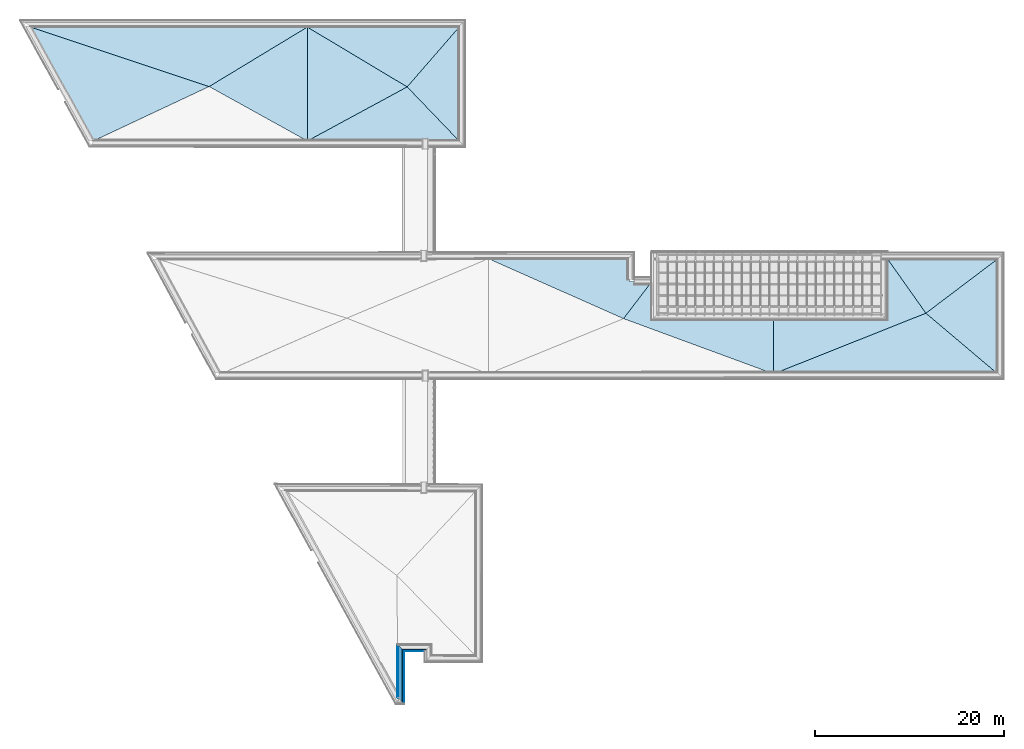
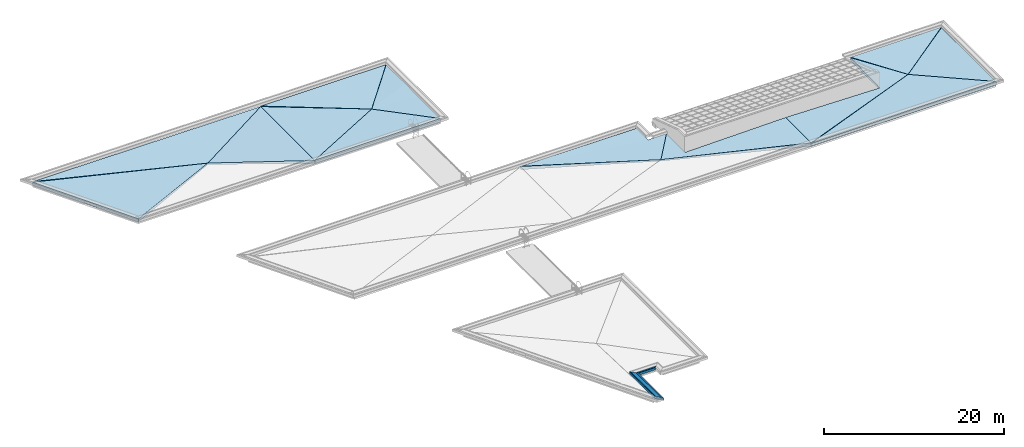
# One storey, part 15 of 47: 13 roofs, 6 building element parts, 2 elements without a shape of their own.
"""IFC2X3 building model written with IfcOpenShell, lengths in millimetres."""

from ifc_helpers import new_model, entity, si_unit, converted_unit, derived_unit, money_unit, direction, frame, origin_with_axes, place, context, subcontext, project, spatial, polyline, outline, extrude, faceted_brep, material, type_object, element, aggregate, save


model = new_model("IFC2X3")

# Units and contexts
model_context = context("Model", 3, precision=1e-05, world=origin_with_axes(), true_north=direction((0.0, 1.0)))
body_context = subcontext(model_context, "Body", "Model", "MODEL_VIEW")
ifc_project = project(units=[si_unit("LENGTHUNIT", "METRE", prefix="MILLI"), si_unit("AREAUNIT", "SQUARE_METRE"), si_unit("VOLUMEUNIT", "CUBIC_METRE"), converted_unit("PLANEANGLEUNIT", "DEGREE", entity("IfcPlaneAngleMeasure", 0.0174532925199), si_unit("PLANEANGLEUNIT", "RADIAN"), dimensions=[0, 0, 0, 0, 0, 0, 0]), si_unit("SOLIDANGLEUNIT", "STERADIAN"), money_unit("EUR"), converted_unit("TIMEUNIT", "Year", entity("IfcTimeMeasure", 31556926.0), si_unit("TIMEUNIT", "SECOND"), dimensions=[0, 0, 1, 0, 0, 0, 0]), si_unit("MASSUNIT", "GRAM", prefix="KILO"), si_unit("THERMODYNAMICTEMPERATUREUNIT", "DEGREE_CELSIUS"), si_unit("LUMINOUSINTENSITYUNIT", "LUMEN"), si_unit("ENERGYUNIT", "JOULE", prefix="MEGA"), derived_unit("THERMALCONDUCTANCEUNIT", [(si_unit("POWERUNIT", "WATT"), 1), (si_unit("LENGTHUNIT", "METRE"), -1), (si_unit("THERMODYNAMICTEMPERATUREUNIT", "KELVIN"), -1)]), derived_unit("SPECIFICHEATCAPACITYUNIT", [(si_unit("ENERGYUNIT", "JOULE"), 1), (si_unit("MASSUNIT", "GRAM", prefix="KILO"), -1), (si_unit("THERMODYNAMICTEMPERATUREUNIT", "KELVIN"), -1)]), derived_unit("MASSDENSITYUNIT", [(si_unit("MASSUNIT", "GRAM", prefix="KILO"), 1), (si_unit("VOLUMEUNIT", "CUBIC_METRE"), -1)])], contexts=[model_context])

# Site, building, storey
site_placement = place(None, origin_with_axes())
site = spatial("IfcSite", under=ifc_project, at=site_placement, Name="Site", CompositionType="ELEMENT")
building_placement = place(site_placement, origin_with_axes())
building = spatial("IfcBuilding", under=site, at=building_placement, Name="Building", CompositionType="ELEMENT")
storey_placement = place(building_placement, frame((0.0, 0.0, 6000.0), z_axis=(0.0, 0.0, 1.0), x_axis=(1.0, 0.0, 0.0)))
storey = spatial("IfcBuildingStorey", under=building, at=storey_placement, Name="KATUSEPLAAN", CompositionType="ELEMENT", Elevation=6000.0)

# Roofs
ifc_material_1 = material(Name="Soojustus - Plastik Kõva")
roof_1_placement = place(storey_placement, frame((88519.207879, 41106.36363, 515.0), z_axis=(0.0, 0.0, 1.0), x_axis=(1.0, 0.0, 0.0)))
element("IfcRoof", 1, at=roof_1_placement, inside=storey, material=ifc_material_1, Name="Soojustus - Plastik Kõva", ShapeType="NOTDEFINED", context=body_context, shape_type="Brep", body=[
    faceted_brep([(11655.4774469, 5741.44271102, 470.0), (0.0, 5741.44271102, 470.0), (4061.03606103, 0.0, 200.0), (11655.4774469, 5741.44271102, 0.0), (0.0, 5741.44271102, 0.0), (4061.03606103, 0.0, 0.0)], [[[0, 1, 2]], [[1, 0, 3, 4]], [[2, 1, 4, 5]], [[0, 2, 5, 3]], [[4, 3, 5]]]),
])
roof_2_placement = place(storey_placement, frame((16712.34232, 59338.5819336, 515.0), z_axis=(0.0, 0.0, 1.0), x_axis=(1.0, 0.0, 0.0)))
element("IfcRoof", 2, at=roof_2_placement, inside=storey, material=ifc_material_1, Name="Soojustus - Plastik Kõva", ShapeType="NOTDEFINED", context=body_context, shape_type="Brep", body=[
    faceted_brep([(10393.1098082, 12053.7875807, 400.0), (0.0, 5757.85660636, 200.0), (10393.0881085, 0.0, 400.0), (10393.1098082, 12053.7875807, 0.0), (0.0, 5757.85660636, 0.0), (10393.0881085, 0.0, 0.0)], [[[0, 1, 2]], [[1, 0, 3, 4]], [[2, 1, 4, 5]], [[0, 2, 5, 3]], [[3, 5, 4]]]),
])
roof_3_placement = place(storey_placement, frame((92580.24394, 34686.6714945, 515.0), z_axis=(0.0, 0.0, 1.0), x_axis=(1.0, 0.0, 0.0)))
element("IfcRoof", 3, at=roof_3_placement, inside=storey, material=ifc_material_1, Name="Soojustus - Plastik Kõva", ShapeType="NOTDEFINED", context=body_context, shape_type="Brep", body=[
    faceted_brep([(7596.33555188, 12191.0042879, 400.0), (0.0, 6419.69213549, 200.0), (7596.31390812, 0.0, 400.0), (7596.33555188, 12191.0042879, 0.0), (0.0, 6419.69213549, 0.0), (7596.31390812, 0.0, 0.0)], [[[0, 1, 2]], [[1, 0, 3, 4]], [[2, 1, 4, 5]], [[0, 2, 5, 3]], [[3, 5, 4]]]),
])
roof_4_placement = place(storey_placement, frame((60574.43361, 34684.6494633, 515.0), z_axis=(0.0, 0.0, 1.0), x_axis=(1.0, 0.0, 0.0)))
element("IfcRoof", 4, at=roof_4_placement, inside=storey, material=ifc_material_1, Name="Soojustus - Plastik Kõva", ShapeType="NOTDEFINED", context=body_context, shape_type="Brep", body=[
    faceted_brep([(0.0, 5847.49871672, 200.0), (15881.5690713, 0.0, 470.0), (2977.1061002, 5668.18143986, 254.131414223), (0.0, 5847.49871672, 0.0), (15881.5690713, 0.0, 0.0), (15881.5690713, 5668.18143986, 470.0), (2977.1061002, 9756.55503245, 318.517291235), (2977.1061002, 9756.55503245, 0.0), (2977.1061002, 5668.18143986, 0.0), (15881.5690713, 5668.18143986, 0.0)], [[[0, 1, 2]], [[1, 0, 3, 4]], [[5, 2, 1]], [[6, 0, 2]], [[0, 6, 7, 3]], [[7, 8, 9, 4, 3]], [[5, 1, 4, 9]], [[2, 5, 9, 8]], [[6, 2, 8, 7]]]),
])
roof_5_placement = place(storey_placement, frame((76456.0026813, 34684.6494633, 515.0), z_axis=(0.0, 0.0, 1.0), x_axis=(1.0, 0.0, 0.0)))
element("IfcRoof", 5, at=roof_5_placement, inside=storey, material=ifc_material_1, Name="Soojustus - Plastik Kõva", ShapeType="NOTDEFINED", context=body_context, shape_type="Brep", body=[
    faceted_brep([(23720.5551668, 2.02203122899, 470.0), (16124.2412587, 6421.71416672, 200.0), (0.0, 0.0, 400.0), (23720.5551668, 2.02203122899, 0.0), (16124.2412587, 6421.71416672, 0.0), (0.0, 0.0, 0.0)], [[[0, 1, 2]], [[1, 0, 3, 4]], [[2, 1, 4, 5]], [[0, 2, 5, 3]], [[3, 5, 4]]]),
])
roof_6_placement = place(storey_placement, frame((46258.362985, 40532.14818, 515.0), z_axis=(0.0, 0.0, 1.0), x_axis=(1.0, 0.0, 0.0)))
element("IfcRoof", 6, at=roof_6_placement, inside=storey, material=ifc_material_1, Name="Soojustus - Plastik Kõva", ShapeType="NOTDEFINED", context=body_context, shape_type="Brep", body=[
    faceted_brep([(14937.0888435, 6369.05571033, 399.11362938), (0.0, 6345.1183248, 470.0), (14937.0888435, 3907.60873544, 307.083420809), (14937.0888435, 6369.05571033, 0.0), (0.0, 6345.1183248, 0.0), (14316.070625, 0.0, 200.0), (14937.0888435, 3907.60873544, 0.0), (17293.1767252, 3909.05631573, 0.0), (14316.070625, 0.0, 0.0), (17293.1767252, 3909.05631573, 320.986321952)], [[[0, 1, 2]], [[1, 0, 3, 4]], [[2, 1, 5]], [[0, 2, 6, 3]], [[3, 6, 7, 8, 4]], [[5, 1, 4, 8]], [[9, 2, 5]], [[2, 9, 7, 6]], [[9, 5, 8, 7]]]),
])
roof_7_placement = place(storey_placement, frame((27105.4304284, 59338.5819341, 515.0), z_axis=(0.0, 0.0, 1.0), x_axis=(1.0, 0.0, 0.0)))
element("IfcRoof", 7, at=roof_7_placement, inside=storey, material=ifc_material_1, Name="Soojustus - Plastik Kõva", ShapeType="NOTDEFINED", context=body_context, shape_type="Brep", body=[
    faceted_brep([(0.0216997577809, 12053.7875802, 400.0), (0.0, 0.0, 400.0), (10568.5888816, 5723.66433589, 200.0), (0.0216997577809, 12053.7875802, 0.0), (0.0, 0.0, 0.0), (10568.5888816, 5723.66433589, 0.0)], [[[0, 1, 2]], [[1, 0, 3, 4]], [[2, 1, 4, 5]], [[0, 2, 5, 3]], [[4, 3, 5]]]),
])
roof_8_placement = place(storey_placement, frame((37674.01931, 59335.3298192, 515.0), z_axis=(0.0, 0.0, 1.0), x_axis=(1.0, 0.0, 0.0)))
element("IfcRoof", 8, at=roof_8_placement, inside=storey, material=ifc_material_1, Name="Soojustus - Plastik Kõva", ShapeType="NOTDEFINED", context=body_context, shape_type="Brep", body=[
    faceted_brep([(5499.43765092, 0.0, 465.0), (5499.53476377, 4969.49979172, 438.207148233), (0.0, 5726.91645082, 200.0), (5499.43765092, 0.0, 0.0), (5499.53476377, 4969.49979172, 0.0), (5499.58788609, 7687.89757931, 538.85531375), (0.0, 5726.91645082, 0.0), (5499.67324866, 12056.1069522, 0.0), (5499.58788609, 7687.89757931, 0.0), (5499.67324866, 12056.1069522, 400.0)], [[[0, 1, 2]], [[1, 0, 3, 4]], [[5, 2, 1]], [[0, 2, 6, 3]], [[7, 8, 4, 3, 6]], [[5, 1, 4, 8]], [[9, 2, 5]], [[2, 9, 7, 6]], [[9, 5, 8, 7]]]),
])
roof_9_placement = place(storey_placement, frame((27105.4494095, 59334.3696846, 515.0), z_axis=(0.0, 0.0, 1.0), x_axis=(1.0, 0.0, 0.0)))
element("IfcRoof", 9, at=roof_9_placement, inside=storey, material=ifc_material_1, Name="Soojustus - Plastik Kõva", ShapeType="NOTDEFINED", context=body_context, shape_type="Brep", body=[
    faceted_brep([(16067.8037924, 1.16320885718, 470.0), (10568.5699005, 5727.87658543, 200.0), (0.0, 0.0, 470.0), (16067.8037924, 1.16320885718, 0.0), (10568.5699005, 5727.87658543, 0.0), (0.0, 0.0, 0.0)], [[[0, 1, 2]], [[1, 0, 3, 4]], [[2, 1, 4, 5]], [[0, 2, 5, 3]], [[3, 5, 4]]]),
])
roof_10_placement = place(storey_placement, frame((27105.4711092, 65062.24627, 515.0), z_axis=(0.0, 0.0, 1.0), x_axis=(1.0, 0.0, 0.0)))
element("IfcRoof", 10, at=roof_10_placement, inside=storey, material=ifc_material_1, Name="Soojustus - Plastik Kõva", ShapeType="NOTDEFINED", context=body_context, shape_type="Brep", body=[
    faceted_brep([(16068.0176823, 6328.97557646, 470.0), (0.0, 6325.91099526, 470.0), (10568.5482008, 0.0, 200.0), (16068.0176823, 6328.97557646, 0.0), (0.0, 6325.91099526, 0.0), (10568.5482008, 0.0, 0.0)], [[[0, 1, 2]], [[1, 0, 3, 4]], [[2, 1, 4, 5]], [[0, 2, 5, 3]], [[4, 3, 5]]]),
])
roof_11_placement = place(storey_placement, frame((76456.0026813, 34684.6494633, 515.0), z_axis=(0.0, 0.0, 1.0), x_axis=(1.0, 0.0, 0.0)))
element("IfcRoof", 11, at=roof_11_placement, inside=storey, material=ifc_material_1, Name="Soojustus - Plastik Kõva", ShapeType="NOTDEFINED", context=body_context, shape_type="Brep", body=[
    faceted_brep([(0.0, 0.0, 470.0), (16124.2412587, 6421.71416672, 200.0), (12063.2051977, 5668.18143986, 254.131414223), (0.0, 0.0, 0.0), (16124.2412587, 6421.71416672, 0.0), (12063.2051976, 12163.1568777, 400.0), (0.0, 5668.18143986, 470.0), (0.0, 5668.18143986, 0.0), (12063.2051977, 5668.18143986, 0.0), (12063.2051976, 12163.1568777, 0.0)], [[[0, 1, 2]], [[1, 0, 3, 4]], [[5, 2, 1]], [[6, 0, 2]], [[0, 6, 7, 3]], [[3, 7, 8, 9, 4]], [[5, 1, 4, 9]], [[2, 5, 9, 8]], [[6, 2, 8, 7]]]),
])
roof_12_placement = place(storey_placement, frame((-2155.59881963, 59347.2269205, 515.0), z_axis=(0.0, 0.0, 1.0), x_axis=(1.0, 0.0, 0.0)))
element("IfcRoof", 12, at=roof_12_placement, inside=storey, material=ifc_material_1, Name="Soojustus - Plastik Kõva", ShapeType="NOTDEFINED", context=body_context, shape_type="Brep", body=[
    faceted_brep([(0.0, 12039.5617648, 400.0), (6633.49655794, 0.0, 400.0), (18867.9411396, 5749.21161946, 200.0), (0.0, 12039.5617648, 0.0), (6633.49655794, 0.0, 0.0), (18867.9411396, 5749.21161946, 0.0)], [[[0, 1, 2]], [[1, 0, 3, 4]], [[2, 1, 4, 5]], [[0, 2, 5, 3]], [[4, 3, 5]]]),
])
roof_13_placement = place(storey_placement, frame((-2155.59881963, 65096.43854, 515.0), z_axis=(0.0, 0.0, 1.0), x_axis=(1.0, 0.0, 0.0)))
element("IfcRoof", 13, at=roof_13_placement, inside=storey, material=ifc_material_1, Name="Soojustus - Plastik Kõva", ShapeType="NOTDEFINED", context=body_context, shape_type="Brep", body=[
    faceted_brep([(29261.0509478, 6295.93097433, 400.0), (0.0, 6290.35014534, 470.0), (18867.9411396, 0.0, 200.0), (29261.0509478, 6295.93097433, 0.0), (0.0, 6290.35014534, 0.0), (18867.9411396, 0.0, 0.0)], [[[0, 1, 2]], [[1, 0, 3, 4]], [[2, 1, 4, 5]], [[0, 2, 5, 3]], [[4, 3, 5]]]),
])

# Wall, building element parts
wall_type = type_object("IfcWallType", Name="VS-4 parapett", PredefinedType="NOTDEFINED")
wall_1_placement = place(storey_placement, frame((39734.0399019, 5525.57676812, 980.0), z_axis=(0.0, 0.0, 1.0), x_axis=(-0.999999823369, 0.000594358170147, 0.0)))
wall_1 = element("IfcWall", 14, at=wall_1_placement, inside=storey, type_object=wall_type, Name="VS4 parapett")
building_element_part_1_placement = place(wall_1_placement, origin_with_axes())
building_element_part_1 = element("IfcBuildingElementPart", 15, at=building_element_part_1_placement, material=ifc_material_1, Name="Soojustus - Plastik Kõva", context=body_context, shape_type="SweptSolid", body=[
    extrude(outline(polyline([(0.0, 0.0), (2567.09365053, 9.09494701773e-10), (2366.97474354, 200.000000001), (199.881163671, 200.000000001), (0.0, 0.0)])), origin_with_axes(), (0.0, 0.0, 1.0), 320.0),
])
ifc_material_2 = material(Name="Tellis - Viimistlus")
building_element_part_2_placement = place(wall_1_placement, origin_with_axes())
building_element_part_2 = element("IfcBuildingElementPart", 16, at=building_element_part_2_placement, material=ifc_material_2, Name="Tellis - Viimistlus", context=body_context, shape_type="SweptSolid", body=[
    extrude(outline(polyline([(199.881163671, 200.000000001), (2366.97474354, 200.000000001), (2346.96285285, 220.000000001), (219.869280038, 220.000000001), (199.881163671, 200.000000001)])), origin_with_axes(), (0.0, 0.0, 1.0), 320.0),
])
aggregate(wall_1, [building_element_part_1, building_element_part_2])

wall_2_placement = place(storey_placement, frame((37166.9467048, 5527.1025412, 980.0), z_axis=(0.0, 0.0, 1.0), x_axis=(0.0, -1.0, 0.0)))
wall_2 = element("IfcWall", 17, at=wall_2_placement, inside=storey, type_object=wall_type, Name="VS4 parapett")
building_element_part_3_placement = place(wall_2_placement, origin_with_axes())
building_element_part_3 = element("IfcBuildingElementPart", 18, at=building_element_part_3_placement, material=ifc_material_1, Name="Soojustus - Plastik Kõva", context=body_context, shape_type="SweptSolid", body=[
    extrude(outline(polyline([(-530.3151035, -530.0), (5053.0090785, -530.0), (5153.0090785, -430.0), (-430.255650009, -430.0), (-530.3151035, -530.0)])), origin_with_axes(), (0.0, 0.0, 1.0), 320.0),
])
ifc_material_3 = material(Name="Kivi - Ol.Olev Konstruktsioon")
building_element_part_4_placement = place(wall_2_placement, origin_with_axes())
building_element_part_4 = element("IfcBuildingElementPart", 19, at=building_element_part_4_placement, material=ifc_material_3, Name="Kivi - Ol.Olev Konstruktsioon", context=body_context, shape_type="SweptSolid", body=[
    extrude(outline(polyline([(-430.255650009, -430.0), (5153.0090785, -430.0), (5583.0090785, 0.0), (0.0, 0.0), (-430.255650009, -430.0)])), origin_with_axes(), (0.0, 0.0, 1.0), 320.0),
])
building_element_part_5_placement = place(wall_2_placement, origin_with_axes())
building_element_part_5 = element("IfcBuildingElementPart", 20, at=building_element_part_5_placement, material=ifc_material_1, Name="Soojustus - Plastik Kõva", context=body_context, shape_type="SweptSolid", body=[
    extrude(outline(polyline([(0.0, 0.0), (5583.0090785, 0.0), (5783.0090785, 200.0), (200.118906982, 200.0), (0.0, 0.0)])), origin_with_axes(), (0.0, 0.0, 1.0), 320.0),
])
building_element_part_6_placement = place(wall_2_placement, origin_with_axes())
building_element_part_6 = element("IfcBuildingElementPart", 21, at=building_element_part_6_placement, material=ifc_material_2, Name="Tellis - Viimistlus", context=body_context, shape_type="SweptSolid", body=[
    extrude(outline(polyline([(200.118906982, 200.0), (5783.0090785, 200.0), (5803.0090785, 220.0), (220.130797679, 220.0), (200.118906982, 200.0)])), origin_with_axes(), (0.0, 0.0, 1.0), 320.0),
])
aggregate(wall_2, [building_element_part_3, building_element_part_4, building_element_part_5, building_element_part_6])

save(model, "model.ifc")
